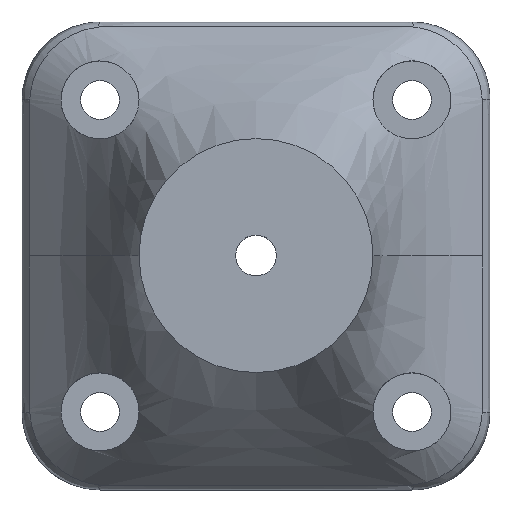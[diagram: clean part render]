
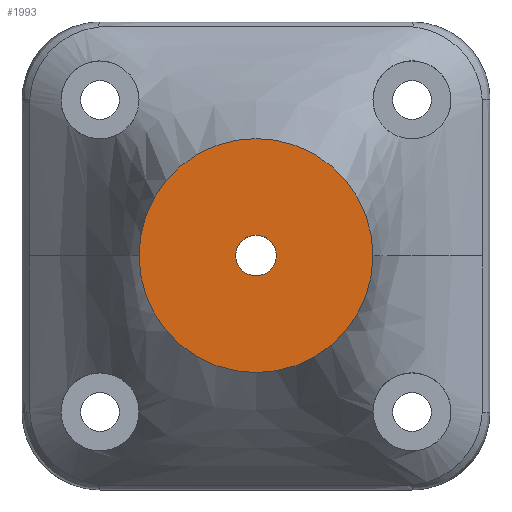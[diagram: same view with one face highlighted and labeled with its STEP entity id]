
A CAD part, top view. The second image highlights one B-rep face of the part: STEP entity #1993.
In plain terms, the highlighted planar face has unit normal (0, 0, 1).
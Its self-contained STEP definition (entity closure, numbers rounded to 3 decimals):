
#39 = CIRCLE ( 'NONE', #681, 15. ) ;
#158 = PLANE ( 'NONE',  #2712 ) ;
#167 = EDGE_LOOP ( 'NONE', ( #716, #570 ) ) ;
#200 = ORIENTED_EDGE ( 'NONE', *, *, #1250, .F. ) ;
#408 = DIRECTION ( 'NONE',  ( 1., 0., 0. ) ) ;
#486 = DIRECTION ( 'NONE',  ( 1., 0., 0. ) ) ;
#570 = ORIENTED_EDGE ( 'NONE', *, *, #834, .T. ) ;
#599 = VERTEX_POINT ( 'NONE', #1023 ) ;
#604 = VERTEX_POINT ( 'NONE', #3427 ) ;
#612 = DIRECTION ( 'NONE',  ( 1., 0., 0. ) ) ;
#624 = DIRECTION ( 'NONE',  ( 0., 0., 1. ) ) ;
#681 = AXIS2_PLACEMENT_3D ( 'NONE', #714, #2595, #985 ) ;
#714 = CARTESIAN_POINT ( 'NONE',  ( 0., 0., 30. ) ) ;
#716 = ORIENTED_EDGE ( 'NONE', *, *, #2812, .T. ) ;
#798 = CARTESIAN_POINT ( 'NONE',  ( -2.6, 0., 30. ) ) ;
#834 = EDGE_CURVE ( 'NONE', #2634, #604, #39, .T. ) ;
#985 = DIRECTION ( 'NONE',  ( 1., 0., 0. ) ) ;
#1023 = CARTESIAN_POINT ( 'NONE',  ( 2.6, 0., 30. ) ) ;
#1034 = CARTESIAN_POINT ( 'NONE',  ( 0., 0., 30. ) ) ;
#1052 = ORIENTED_EDGE ( 'NONE', *, *, #2050, .F. ) ;
#1221 = DIRECTION ( 'NONE',  ( 0., 0., 1. ) ) ;
#1250 = EDGE_CURVE ( 'NONE', #599, #2217, #1261, .T. ) ;
#1261 = CIRCLE ( 'NONE', #1303, 2.6 ) ;
#1303 = AXIS2_PLACEMENT_3D ( 'NONE', #3139, #624, #612 ) ;
#1553 = AXIS2_PLACEMENT_3D ( 'NONE', #2326, #1221, #3397 ) ;
#1558 = CIRCLE ( 'NONE', #1553, 15. ) ;
#1645 = FACE_OUTER_BOUND ( 'NONE', #167, .T. ) ;
#1993 = ADVANCED_FACE ( 'NONE', ( #2621, #1645 ), #158, .T. ) ;
#2018 = CARTESIAN_POINT ( 'NONE',  ( 0., 0., 30. ) ) ;
#2050 = EDGE_CURVE ( 'NONE', #2217, #599, #2280, .T. ) ;
#2176 = EDGE_LOOP ( 'NONE', ( #200, #1052 ) ) ;
#2217 = VERTEX_POINT ( 'NONE', #798 ) ;
#2280 = CIRCLE ( 'NONE', #2935, 2.6 ) ;
#2317 = DIRECTION ( 'NONE',  ( 0., 0., 1. ) ) ;
#2326 = CARTESIAN_POINT ( 'NONE',  ( 0., 0., 30. ) ) ;
#2595 = DIRECTION ( 'NONE',  ( 0., 0., 1. ) ) ;
#2621 = FACE_BOUND ( 'NONE', #2176, .T. ) ;
#2634 = VERTEX_POINT ( 'NONE', #3230 ) ;
#2712 = AXIS2_PLACEMENT_3D ( 'NONE', #2018, #2317, #408 ) ;
#2812 = EDGE_CURVE ( 'NONE', #604, #2634, #1558, .T. ) ;
#2935 = AXIS2_PLACEMENT_3D ( 'NONE', #1034, #3428, #486 ) ;
#3139 = CARTESIAN_POINT ( 'NONE',  ( 0., 0., 30. ) ) ;
#3230 = CARTESIAN_POINT ( 'NONE',  ( 15., 0., 30. ) ) ;
#3397 = DIRECTION ( 'NONE',  ( 1., 0., 0. ) ) ;
#3427 = CARTESIAN_POINT ( 'NONE',  ( -15., 0., 30. ) ) ;
#3428 = DIRECTION ( 'NONE',  ( 0., 0., 1. ) ) ;
